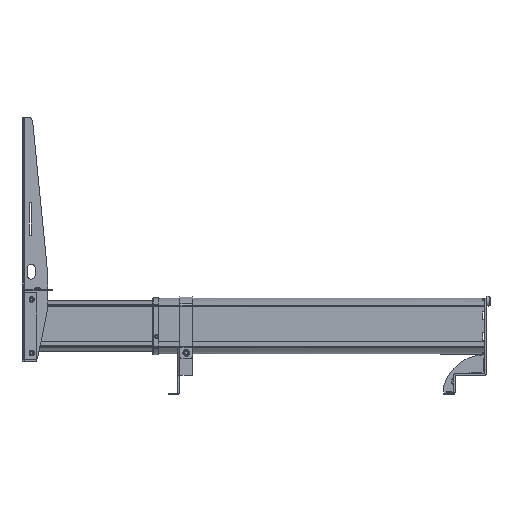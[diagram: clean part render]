
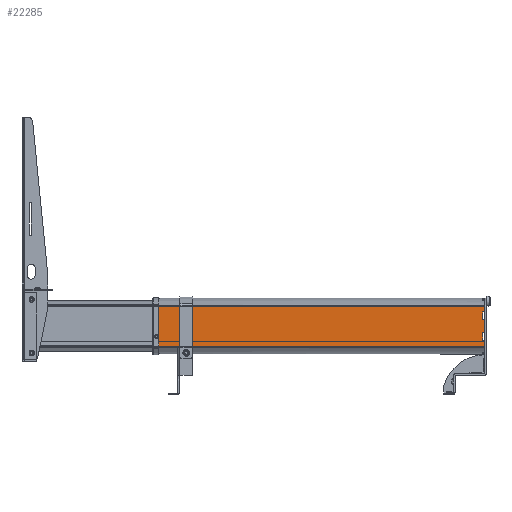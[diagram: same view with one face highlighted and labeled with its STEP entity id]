
A CAD part, left-side view. The second image highlights one B-rep face of the part: STEP entity #22285.
In plain terms, the highlighted planar face has unit normal (-1, 0, 0).
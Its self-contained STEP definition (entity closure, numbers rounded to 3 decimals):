
#276 = VECTOR ( 'NONE', #2136, 1000. ) ;
#634 = LINE ( 'NONE', #30576, #22725 ) ;
#800 = CARTESIAN_POINT ( 'NONE',  ( -70., -38.327, 0. ) ) ;
#1497 = ORIENTED_EDGE ( 'NONE', *, *, #16736, .F. ) ;
#1886 = ORIENTED_EDGE ( 'NONE', *, *, #21303, .T. ) ;
#2136 = DIRECTION ( 'NONE',  ( 0., -1., 0. ) ) ;
#2149 = CARTESIAN_POINT ( 'NONE',  ( -70., 27.6, 644. ) ) ;
#2190 = DIRECTION ( 'NONE',  ( 0., 1., 0. ) ) ;
#2669 = DIRECTION ( 'NONE',  ( 0., 0., -1. ) ) ;
#3060 = CARTESIAN_POINT ( 'NONE',  ( -70., -27.6, 0. ) ) ;
#3396 = CARTESIAN_POINT ( 'NONE',  ( -70., -27.6, 4.1 ) ) ;
#3579 = DIRECTION ( 'NONE',  ( 0., 0., -1. ) ) ;
#3823 = CARTESIAN_POINT ( 'NONE',  ( -70., -39., 644. ) ) ;
#4105 = VERTEX_POINT ( 'NONE', #6509 ) ;
#4888 = CARTESIAN_POINT ( 'NONE',  ( -70., 20.312, 634.25 ) ) ;
#5386 = EDGE_CURVE ( 'NONE', #7543, #12061, #34111, .T. ) ;
#5516 = VERTEX_POINT ( 'NONE', #3060 ) ;
#5831 = ORIENTED_EDGE ( 'NONE', *, *, #9553, .F. ) ;
#6509 = CARTESIAN_POINT ( 'NONE',  ( -70., -38.327, 644. ) ) ;
#6832 = ORIENTED_EDGE ( 'NONE', *, *, #19058, .T. ) ;
#6906 = VECTOR ( 'NONE', #21311, 1000. ) ;
#7211 = ORIENTED_EDGE ( 'NONE', *, *, #26636, .T. ) ;
#7266 = ORIENTED_EDGE ( 'NONE', *, *, #20263, .T. ) ;
#7440 = DIRECTION ( 'NONE',  ( 1., 0., 0. ) ) ;
#7543 = VERTEX_POINT ( 'NONE', #9619 ) ;
#8112 = VERTEX_POINT ( 'NONE', #18486 ) ;
#8128 = EDGE_CURVE ( 'NONE', #30596, #25543, #26383, .T. ) ;
#8902 = CARTESIAN_POINT ( 'NONE',  ( -70., -27.6, 4.1 ) ) ;
#9553 = EDGE_CURVE ( 'NONE', #25543, #8112, #10115, .T. ) ;
#9619 = CARTESIAN_POINT ( 'NONE',  ( -70., 27.6, 4.1 ) ) ;
#9879 = AXIS2_PLACEMENT_3D ( 'NONE', #16877, #14400, #30696 ) ;
#9887 = CARTESIAN_POINT ( 'NONE',  ( -70., 27.6, 0. ) ) ;
#10048 = ORIENTED_EDGE ( 'NONE', *, *, #18670, .T. ) ;
#10115 = LINE ( 'NONE', #20943, #26299 ) ;
#10467 = LINE ( 'NONE', #8902, #27878 ) ;
#10917 = VERTEX_POINT ( 'NONE', #4888 ) ;
#11225 = VERTEX_POINT ( 'NONE', #14269 ) ;
#11475 = CARTESIAN_POINT ( 'NONE',  ( -70., 12.4, 4.1 ) ) ;
#11812 = VECTOR ( 'NONE', #22968, 1000. ) ;
#11884 = CARTESIAN_POINT ( 'NONE',  ( -70., -38.327, 644. ) ) ;
#11922 = EDGE_CURVE ( 'NONE', #10917, #10917, #29534, .T. ) ;
#12003 = DIRECTION ( 'NONE',  ( 0., 0., -1. ) ) ;
#12061 = VERTEX_POINT ( 'NONE', #9887 ) ;
#12576 = EDGE_LOOP ( 'NONE', ( #14762, #30248, #34541, #10048, #5831, #28793, #6832, #7266, #1497, #30819, #7211, #1886 ) ) ;
#13381 = PLANE ( 'NONE',  #16996 ) ;
#14269 = CARTESIAN_POINT ( 'NONE',  ( -70., 39., 644. ) ) ;
#14400 = DIRECTION ( 'NONE',  ( 1., 0., 0. ) ) ;
#14715 = EDGE_LOOP ( 'NONE', ( #33624 ) ) ;
#14762 = ORIENTED_EDGE ( 'NONE', *, *, #5386, .F. ) ;
#15152 = LINE ( 'NONE', #20718, #16398 ) ;
#15530 = DIRECTION ( 'NONE',  ( 0., 0., -1. ) ) ;
#15633 = DIRECTION ( 'NONE',  ( 0., 0., -1. ) ) ;
#16204 = FACE_OUTER_BOUND ( 'NONE', #12576, .T. ) ;
#16398 = VECTOR ( 'NONE', #23448, 1000. ) ;
#16736 = EDGE_CURVE ( 'NONE', #4105, #30571, #27205, .T. ) ;
#16773 = LINE ( 'NONE', #31953, #24900 ) ;
#16877 = CARTESIAN_POINT ( 'NONE',  ( -70., 20.312, 638. ) ) ;
#16996 = AXIS2_PLACEMENT_3D ( 'NONE', #32504, #7440, #15633 ) ;
#18144 = LINE ( 'NONE', #26276, #276 ) ;
#18486 = CARTESIAN_POINT ( 'NONE',  ( -70., -12.4, 0. ) ) ;
#18670 = EDGE_CURVE ( 'NONE', #33812, #8112, #15152, .T. ) ;
#19058 = EDGE_CURVE ( 'NONE', #30596, #5516, #10467, .T. ) ;
#19064 = LINE ( 'NONE', #3823, #11812 ) ;
#19206 = FACE_BOUND ( 'NONE', #14715, .T. ) ;
#19303 = EDGE_CURVE ( 'NONE', #27397, #33812, #16773, .T. ) ;
#19357 = DIRECTION ( 'NONE',  ( 0., -1., 0. ) ) ;
#19672 = DIRECTION ( 'NONE',  ( 0., -1., 0. ) ) ;
#20263 = EDGE_CURVE ( 'NONE', #5516, #30571, #634, .T. ) ;
#20718 = CARTESIAN_POINT ( 'NONE',  ( -70., -39., 0. ) ) ;
#20943 = CARTESIAN_POINT ( 'NONE',  ( -70., -12.4, 4.1 ) ) ;
#21303 = EDGE_CURVE ( 'NONE', #32812, #12061, #34243, .T. ) ;
#21311 = DIRECTION ( 'NONE',  ( 0., 0., -1. ) ) ;
#21504 = VECTOR ( 'NONE', #19357, 1000. ) ;
#21600 = CARTESIAN_POINT ( 'NONE',  ( -70., 39., 644. ) ) ;
#22285 = ADVANCED_FACE ( 'NONE', ( #19206, #16204 ), #13381, .F. ) ;
#22725 = VECTOR ( 'NONE', #19672, 1000. ) ;
#22968 = DIRECTION ( 'NONE',  ( 0., -1., 0. ) ) ;
#23448 = DIRECTION ( 'NONE',  ( 0., -1., 0. ) ) ;
#24825 = CARTESIAN_POINT ( 'NONE',  ( -70., -39., 0. ) ) ;
#24900 = VECTOR ( 'NONE', #15530, 1000. ) ;
#25348 = CARTESIAN_POINT ( 'NONE',  ( -70., -12.4, 4.1 ) ) ;
#25543 = VERTEX_POINT ( 'NONE', #25348 ) ;
#26276 = CARTESIAN_POINT ( 'NONE',  ( -70., -39., 4.1 ) ) ;
#26299 = VECTOR ( 'NONE', #28774, 1000. ) ;
#26383 = LINE ( 'NONE', #32126, #31485 ) ;
#26636 = EDGE_CURVE ( 'NONE', #11225, #32812, #31703, .T. ) ;
#27205 = LINE ( 'NONE', #11884, #31884 ) ;
#27397 = VERTEX_POINT ( 'NONE', #11475 ) ;
#27878 = VECTOR ( 'NONE', #3579, 1000. ) ;
#28774 = DIRECTION ( 'NONE',  ( 0., 0., -1. ) ) ;
#28793 = ORIENTED_EDGE ( 'NONE', *, *, #8128, .F. ) ;
#28891 = EDGE_CURVE ( 'NONE', #7543, #27397, #18144, .T. ) ;
#29051 = CARTESIAN_POINT ( 'NONE',  ( -70., 12.4, 0. ) ) ;
#29534 = CIRCLE ( 'NONE', #9879, 3.75 ) ;
#29589 = VECTOR ( 'NONE', #2669, 1000. ) ;
#30248 = ORIENTED_EDGE ( 'NONE', *, *, #28891, .T. ) ;
#30571 = VERTEX_POINT ( 'NONE', #800 ) ;
#30576 = CARTESIAN_POINT ( 'NONE',  ( -70., -39., 0. ) ) ;
#30596 = VERTEX_POINT ( 'NONE', #3396 ) ;
#30696 = DIRECTION ( 'NONE',  ( 0., 0., -1. ) ) ;
#30819 = ORIENTED_EDGE ( 'NONE', *, *, #35032, .F. ) ;
#31485 = VECTOR ( 'NONE', #2190, 1000. ) ;
#31703 = LINE ( 'NONE', #21600, #29589 ) ;
#31884 = VECTOR ( 'NONE', #12003, 1000. ) ;
#31953 = CARTESIAN_POINT ( 'NONE',  ( -70., 12.4, 644. ) ) ;
#32126 = CARTESIAN_POINT ( 'NONE',  ( -70., -12.4, 4.1 ) ) ;
#32504 = CARTESIAN_POINT ( 'NONE',  ( -70., -39., 644. ) ) ;
#32812 = VERTEX_POINT ( 'NONE', #33017 ) ;
#33017 = CARTESIAN_POINT ( 'NONE',  ( -70., 39., 0. ) ) ;
#33624 = ORIENTED_EDGE ( 'NONE', *, *, #11922, .T. ) ;
#33812 = VERTEX_POINT ( 'NONE', #29051 ) ;
#34111 = LINE ( 'NONE', #2149, #6906 ) ;
#34243 = LINE ( 'NONE', #24825, #21504 ) ;
#34541 = ORIENTED_EDGE ( 'NONE', *, *, #19303, .T. ) ;
#35032 = EDGE_CURVE ( 'NONE', #11225, #4105, #19064, .T. ) ;
